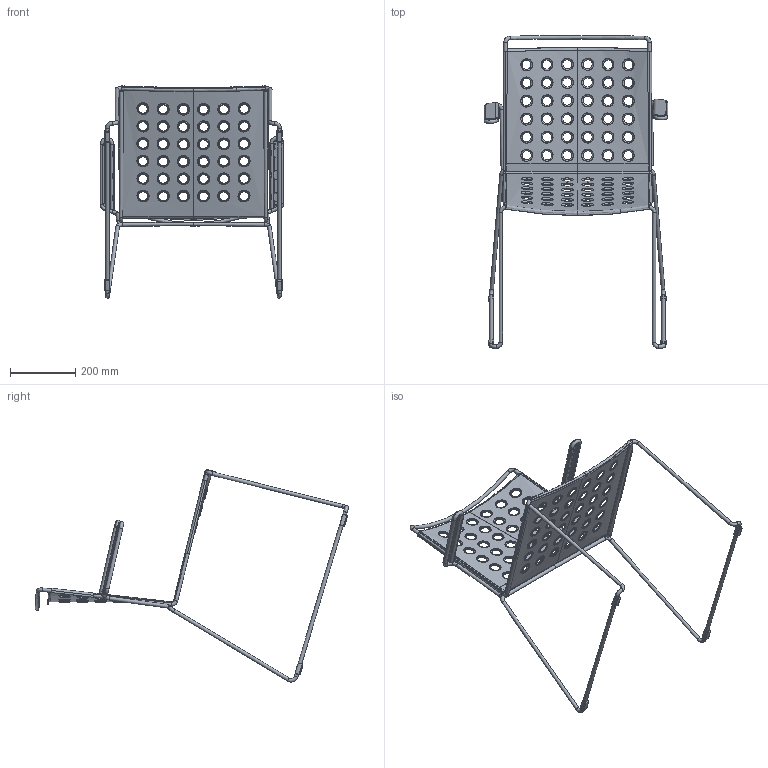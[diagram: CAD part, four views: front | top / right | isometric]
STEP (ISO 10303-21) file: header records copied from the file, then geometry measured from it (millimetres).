
FILE_DESCRIPTION(('STEP AP203'),'1');
FILE_NAME('Sedia con braccioli Busy.step','2018-07-13T07:14:34',(' '),(' '),'Spatial InterOp 3D',' ',' ');
FILE_SCHEMA(('CONFIG_CONTROL_DESIGN'));
Length unit declared in the file: millimetre
Products named in the file (1): 1
Bounding box: 564.57 x 961.07 x 651.23 mm (x, y, z)
Volume: 1553951.5 mm3; surface area: 1019946.9 mm2
Topology: 11 solids, 11 shells, 2368 faces, 6039 edges, 3644 vertices
Faces by surface type: cylinder 860, plane 656, bspline 622, torus 180, sphere 42, extrusion 4, offset 2, cone 2
Full cylindrical faces by diameter (mm): 11 x20, 36 x4, 37 x8
Entity records: 111719 total; most frequent: CARTESIAN_POINT 63528, ORIENTED_EDGE 11044, DIRECTION 8274, EDGE_CURVE 5522, AXIS2_PLACEMENT_3D 3648, VERTEX_POINT 3476, EDGE_LOOP 2812, FACE_OUTER_BOUND 2568
